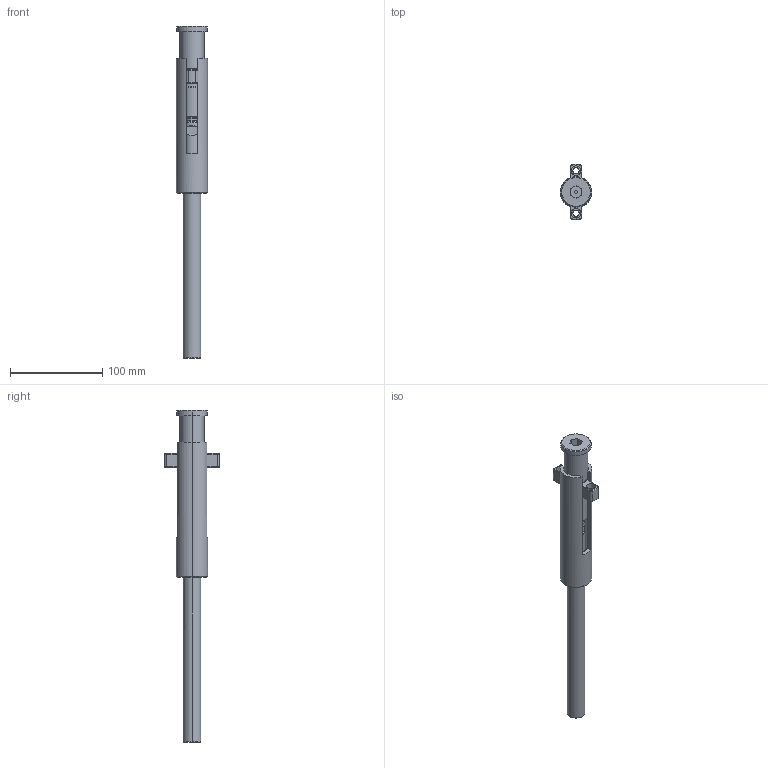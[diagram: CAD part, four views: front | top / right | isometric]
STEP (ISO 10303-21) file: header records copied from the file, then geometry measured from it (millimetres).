
FILE_DESCRIPTION (( 'STEP AP203' ), '1' );
FILE_NAME ('DKL3422.STEP', '2013-08-26T10:47:30', ( '' ), ( '' ), 'SwSTEP 2.0', 'SolidWorks 2013', '' );
FILE_SCHEMA (( 'CONFIG_CONTROL_DESIGN' ));
Length unit declared in the file: millimetre
Products named in the file (9): DKL3041; DKL3082; DKL3072; DKL3011; DKL3422; DKL3031; DKL3062; DKL3051; DKL3021
Assembly tree (11 placements, depth 2):
  DKL3422
    DKL3031
    DKL3062  x4
    DKL3051
    DKL3021
    DKL3041
    DKL3082
    DKL3072
    DKL3011
Bounding box: 34 x 59.94 x 359 mm (x, y, z)
Volume: 170038.4 mm3; surface area: 65118.9 mm2
Topology: 11 solids, 11 shells, 489 faces, 1151 edges, 692 vertices
Faces by surface type: plane 158, cylinder 142, cone 127, torus 56, bspline 6
Entity records: 16486 total; most frequent: CARTESIAN_POINT 5884, DIRECTION 2155, ORIENTED_EDGE 1918, EDGE_CURVE 959, AXIS2_PLACEMENT_3D 870, VERTEX_POINT 581, EDGE_LOOP 452, CIRCLE 451
